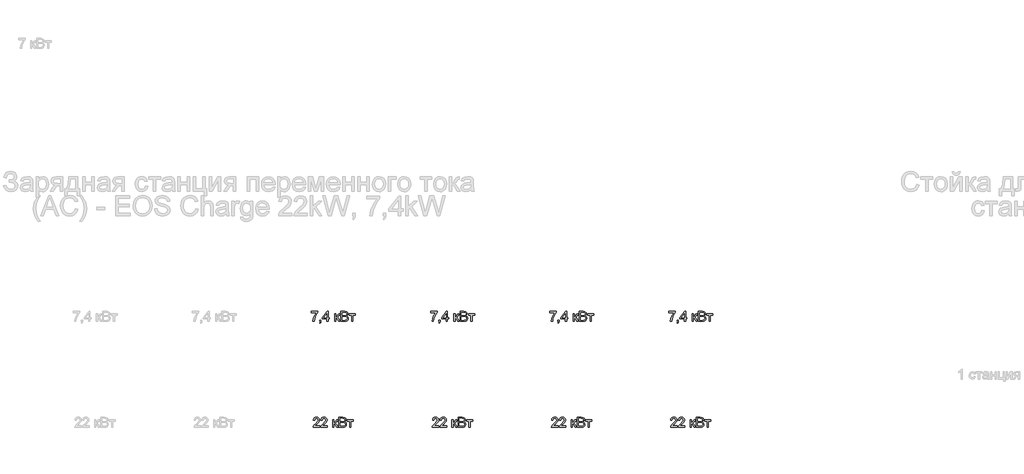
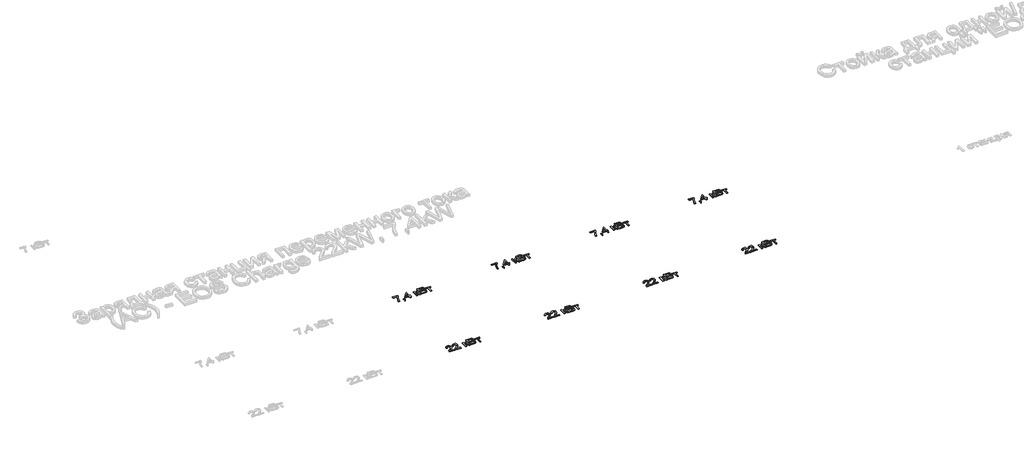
# One storey, part 2 of 26: 8 proxies.
"""IFC4 building model written with IfcOpenShell, lengths in millimetres."""

import ifcopenshell
import ifcopenshell.guid

model = None  # the IFC model being written
_history = None  # IfcOwnerHistory: only IFC2X3 demands one
_inside = {}  # id of a spatial element -> (the spatial element, [elements in it])
_under = {}  # id of a project, library or spatial element -> (it, [spatial elements below it])
_declared = {}  # id of a project -> (the project, [libraries it declares])
_typed = {}  # id of a type object -> (the type object, [elements of that type])
_made_of = {}  # id of a material, layer set ... -> (it, [elements and type objects made of it])


def new_model(schema):
    """Start an empty IFC model of exactly this schema.

    Asked for "IFC4X3", IfcOpenShell would pick the latest addendum, in which some entities
    have other attributes; the version numbers below select the first issue.
    IFC2X3 requires an IfcOwnerHistory on every rooted entity: one is made here for all.
    """
    global model, _history
    if schema == "IFC4X3":
        model = ifcopenshell.file(schema_version=(4, 3, 0, 0))
    else:
        model = ifcopenshell.file(schema=schema)
    _inside.clear()
    _under.clear()
    _declared.clear()
    _typed.clear()
    _made_of.clear()
    _history = None
    if model.schema == "IFC2X3":
        org = make("IfcOrganization", Name="unknown")
        user = make(
            "IfcPersonAndOrganization",
            ThePerson=make("IfcPerson", FamilyName="unknown"),
            TheOrganization=org,
        )
        app = make(
            "IfcApplication",
            ApplicationDeveloper=org,
            Version="unknown",
            ApplicationFullName="unknown",
            ApplicationIdentifier="unknown",
        )
        _history = make(
            "IfcOwnerHistory",
            OwningUser=user,
            OwningApplication=app,
            ChangeAction="ADDED",
            CreationDate=0,
        )
    return model


def make(cls, **values):
    """One entity of the class cls with the attributes given. An attribute that is None is left unset."""
    return model.create_entity(
        cls, **{name: value for name, value in values.items() if value is not None}
    )


def rooted(cls, **values):
    """An entity with a GlobalId (a new one), such as an element, a storey or a relation."""
    return make(cls, GlobalId=ifcopenshell.guid.new(), OwnerHistory=_history, **values)


def si_unit(unit_type, name, prefix=None):
    """IfcSIUnit, for example si_unit("LENGTHUNIT", "METRE", prefix="MILLI")."""
    return make("IfcSIUnit", UnitType=unit_type, Prefix=prefix, Name=name)


def assignment(units):
    """IfcUnitAssignment: the units of a project."""
    return None if units is None else make("IfcUnitAssignment", Units=units)


def point(xyz):
    """IfcCartesianPoint."""
    return None if xyz is None else make("IfcCartesianPoint", Coordinates=xyz)


def direction(xyz):
    """IfcDirection."""
    return None if xyz is None else make("IfcDirection", DirectionRatios=xyz)


def frame(location, z_axis=None, x_axis=None):
    """IfcAxis2Placement3D, a coordinate frame: its origin and axes. An axis left out is left unset."""
    return make(
        "IfcAxis2Placement3D",
        Location=point(location),
        Axis=direction(z_axis),
        RefDirection=direction(x_axis),
    )


def origin():
    """The frame at (0, 0, 0) with its axes left unset."""
    return frame((0.0, 0.0, 0.0))


def origin_with_axes():
    """The frame at (0, 0, 0) with the z axis (0, 0, 1) and the x axis (1, 0, 0) written out."""
    return frame((0.0, 0.0, 0.0), z_axis=(0.0, 0.0, 1.0), x_axis=(1.0, 0.0, 0.0))


def place(relative_to, where):
    """IfcLocalPlacement: puts the frame where relative to a parent placement (None: the world)."""
    return make(
        "IfcLocalPlacement", PlacementRelTo=relative_to, RelativePlacement=where
    )


def context(
    kind, dimensions, precision=None, world=None, true_north=None, identifier=None
):
    """IfcGeometricRepresentationContext, for example the 3D "Model" context."""
    return make(
        "IfcGeometricRepresentationContext",
        ContextIdentifier=identifier,
        ContextType=kind,
        CoordinateSpaceDimension=dimensions,
        Precision=precision,
        WorldCoordinateSystem=world,
        TrueNorth=true_north,
    )


def project(units=None, contexts=None):
    """IfcProject with its units and contexts."""
    return rooted(
        "IfcProject",
        Name="project",
        RepresentationContexts=contexts,
        UnitsInContext=assignment(units),
    )


def spatial(cls, under=None, at=None, **own):
    """A site, building, storey or space (cls), placed at a placement, below another one or the project."""
    s = rooted(cls, ObjectPlacement=at, **own)
    if under is not None:
        _under.setdefault(under.id(), (under, []))[1].append(s)
    return s


def polyline(points):
    """IfcPolyline through the points."""
    return make("IfcPolyline", Points=[point(p) for p in points])


def outline(outer, holes=None, kind="AREA"):
    """IfcArbitraryClosedProfileDef: a profile drawn as a closed curve; with holes, ...WithVoids."""
    if holes is None:
        return make("IfcArbitraryClosedProfileDef", ProfileType=kind, OuterCurve=outer)
    return make(
        "IfcArbitraryProfileDefWithVoids",
        ProfileType=kind,
        OuterCurve=outer,
        InnerCurves=holes,
    )


def extrude(swept, where, along, depth):
    """IfcExtrudedAreaSolid: the profile swept, set in the frame where, extruded along a direction by depth."""
    return make(
        "IfcExtrudedAreaSolid",
        SweptArea=swept,
        Position=where,
        ExtrudedDirection=direction(along),
        Depth=depth,
    )


def shape(context_of_items, identifier, shape_type, items):
    """IfcShapeRepresentation: the items that make up one representation, for example the "Body"."""
    return make(
        "IfcShapeRepresentation",
        ContextOfItems=context_of_items,
        RepresentationIdentifier=identifier,
        RepresentationType=shape_type,
        Items=items,
    )


def made_of(thing, what):
    """Note that an element or type object is made of a material, layer set ...; save() writes the relation."""
    if what is not None:
        _made_of.setdefault(what.id(), (what, []))[1].append(thing)
    return thing


def element(
    cls,
    number,
    at=None,
    inside=None,
    cuts=None,
    type_object=None,
    material=None,
    context=None,
    identifier="Body",
    shape_type=None,
    held_by="IfcProductDefinitionShape",
    body=None,
    shapes=None,
    **own,
):
    """One element of the class cls, such as IfcWall. Its Tag is "e" and its number.

    at: its placement. inside: the storey or other place that contains it. cuts: it is an
    opening in that element (IfcRelVoidsElement). A single representation is given by context,
    identifier, shape_type and body (its items); several are given by shapes. held_by: the class
    of the entity that holds the representations. save() writes the other relations.
    """
    e = rooted(cls, Tag="e%d" % number, ObjectPlacement=at, **own)
    if body is not None:
        shapes = [shape(context, identifier, shape_type, body)]
    if shapes is not None:
        e.Representation = make(held_by, Representations=shapes)
    if inside is not None:
        _inside.setdefault(inside.id(), (inside, []))[1].append(e)
    if cuts is not None:
        rooted(
            "IfcRelVoidsElement", RelatingBuildingElement=cuts, RelatedOpeningElement=e
        )
    if type_object is not None:
        _typed.setdefault(type_object.id(), (type_object, []))[1].append(e)
    return made_of(e, material)


def aggregate(whole, parts):
    """IfcRelAggregates: a whole, such as a stair, and the parts it consists of."""
    return rooted("IfcRelAggregates", RelatingObject=whole, RelatedObjects=parts)


def save(model, path):
    """Write the relations noted so far, then the file.

    IfcRelAggregates (storeys below a building ...), IfcRelContainedInSpatialStructure (elements
    in a storey), IfcRelDefinesByType, IfcRelAssociatesMaterial and IfcRelDeclares: one each for
    every whole, place, type object, material and project.
    """
    for whole, parts in _under.values():
        aggregate(whole, parts)
    for where, things in _inside.values():
        rooted(
            "IfcRelContainedInSpatialStructure",
            RelatedElements=things,
            RelatingStructure=where,
        )
    for kind, things in _typed.values():
        rooted("IfcRelDefinesByType", RelatedObjects=things, RelatingType=kind)
    for what, things in _made_of.values():
        rooted("IfcRelAssociatesMaterial", RelatedObjects=things, RelatingMaterial=what)
    for by, libraries in _declared.values():
        rooted("IfcRelDeclares", RelatingContext=by, RelatedDefinitions=libraries)
    model.write(path)


model = new_model("IFC4")

# Units and contexts
model_context = context("Model", 3, world=origin())
ifc_project = project(units=[si_unit("LENGTHUNIT", "METRE", prefix="MILLI")], contexts=[model_context])

# Site, building, storey
site = spatial("IfcSite", under=ifc_project)
building = spatial("IfcBuilding", under=site)
storey = spatial("IfcBuildingStorey", under=building, Name="Этаж 01", Elevation=0.0)

# Proxies
placement = place(None, origin())
element("IfcBuildingElementProxy", 1, Name="75 мм Arial", ObjectType="75 мм Arial", at=placement, inside=storey, context=model_context, shape_type="SweptSolid", body=[
    extrude(outline(polyline([(5073.8429939, -22047.1362973), (5073.8429939, -22037.7185182), (5123.2863341, -22037.7185182), (5123.2863341, -22045.3336755), (5109.260833, -22065.5947764), (5098.5278758, -22091.4108954), (5095.0329969, -22111.8835284), (5085.6152178, -22111.8835284), (5089.3584171, -22090.6383432), (5099.6315218, -22066.624846), (5113.868555, -22047.1362973), (5073.8429939, -22047.1362973)])), origin_with_axes(), (0.0, 0.0, 1.0), 5.0),
    extrude(outline(polyline([(5136.2357803, -22111.8835284), (5136.2357803, -22102.4657493), (5145.6535594, -22102.4657493), (5145.6535594, -22111.8835284), (5143.9613022, -22121.5128396), (5138.5902251, -22127.1874194), (5136.2357803, -22123.6557523), (5139.6938711, -22119.5906562), (5140.9262758, -22111.8835284), (5136.2357803, -22111.8835284)])), origin_with_axes(), (0.0, 0.0, 1.0), 5.0),
    extrude(outline(polyline([(5191.5652324, -22111.8835284), (5191.5652324, -22094.2251927), (5157.4257832, -22094.2251927), (5157.4257832, -22084.8074136), (5193.9196772, -22037.7185182), (5200.9830115, -22037.7185182), (5200.9830115, -22084.8074136), (5210.4007906, -22084.8074136), (5210.4007906, -22094.2251927), (5200.9830115, -22094.2251927), (5200.9830115, -22111.8835284), (5191.5652324, -22111.8835284)]), holes=[polyline([(5191.5652324, -22084.8074136), (5191.5652324, -22055.7079478), (5169.0140661, -22084.8074136), (5191.5652324, -22084.8074136)])]), origin_with_axes(), (0.0, 0.0, 1.0), 5.0),
    extrude(outline(polyline([(5250.4263516, -22056.5540763), (5259.8441307, -22056.5540763), (5259.8441307, -22080.098524), (5266.1533069, -22078.4062669), (5271.322049, -22068.5470294), (5275.6170712, -22060.0397583), (5279.4062558, -22057.2714462), (5286.2948462, -22056.5540763), (5288.0974679, -22056.5540763), (5288.0974679, -22066.0270377), (5285.5590822, -22065.9718554), (5280.9605572, -22066.9651368), (5277.7231957, -22073.1639484), (5273.9248141, -22079.8685978), (5268.5997222, -22083.1519446), (5280.371946, -22094.5378924), (5290.4519127, -22111.8835284), (5279.7465466, -22111.8835284), (5269.8689151, -22094.9057743), (5264.9025081, -22087.7228784), (5259.8441307, -22085.984636), (5259.8441307, -22111.8835284), (5250.4263516, -22111.8835284), (5250.4263516, -22056.5540763)])), origin_with_axes(), (0.0, 0.0, 1.0), 5.0),
    extrude(outline(polyline([(5297.515247, -22111.8835284), (5297.515247, -22036.5412958), (5326.2652249, -22036.5412958), (5340.3459083, -22038.7577848), (5348.6600414, -22045.5727988), (5351.6674767, -22055.2113071), (5349.138288, -22064.0128838), (5341.4955395, -22070.680745), (5350.7753629, -22077.7072911), (5354.0219215, -22089.4243326), (5351.8054324, -22099.5502845), (5346.3147937, -22106.7607716), (5338.1202222, -22110.5867444), (5326.0444957, -22111.8835284), (5297.515247, -22111.8835284)]), holes=[polyline([(5306.9330261, -22102.4657493), (5326.2468308, -22102.4657493), (5333.2365887, -22102.0978674), (5339.1502918, -22100.0469252), (5343.0682351, -22095.8622675), (5344.6041424, -22089.5163031), (5342.8015206, -22082.1954514), (5336.9613939, -22077.8268527), (5325.3271258, -22076.5668569), (5306.9330261, -22076.5668569), (5306.9330261, -22102.4657493)]), polyline([(5306.9330261, -22067.1490778), (5324.1315094, -22067.1490778), (5334.1746878, -22066.3397374), (5340.2171496, -22062.8540555), (5342.2496976, -22056.7196232), (5340.3551053, -22050.5759939), (5334.9288459, -22046.9431592), (5322.8255283, -22045.9590749), (5306.9330261, -22045.9590749), (5306.9330261, -22067.1490778)])]), origin_with_axes(), (0.0, 0.0, 1.0), 5.0),
    extrude(outline(polyline([(5361.0852558, -22056.5540763), (5405.8197064, -22056.5540763), (5405.8197064, -22065.9718554), (5388.1613706, -22065.9718554), (5388.1613706, -22111.8835284), (5378.7435915, -22111.8835284), (5378.7435915, -22065.9718554), (5361.0852558, -22065.9718554), (5361.0852558, -22056.5540763)])), origin_with_axes(), (0.0, 0.0, 1.0), 5.0),
])
element("IfcBuildingElementProxy", 2, Name="75 мм Arial", ObjectType="75 мм Arial", at=placement, inside=storey, context=model_context, shape_type="SweptSolid", body=[
    extrude(outline(polyline([(5974.5962232, -22047.1362973), (5974.5962232, -22037.7185182), (6024.0395633, -22037.7185182), (6024.0395633, -22045.3336755), (6010.0140622, -22065.5947764), (5999.281105, -22091.4108954), (5995.7862261, -22111.8835284), (5986.368447, -22111.8835284), (5990.1116463, -22090.6383432), (6000.384751, -22066.624846), (6014.6217842, -22047.1362973), (5974.5962232, -22047.1362973)])), origin_with_axes(), (0.0, 0.0, 1.0), 5.0),
    extrude(outline(polyline([(6036.9890095, -22111.8835284), (6036.9890095, -22102.4657493), (6046.4067886, -22102.4657493), (6046.4067886, -22111.8835284), (6044.7145314, -22121.5128396), (6039.3434543, -22127.1874194), (6036.9890095, -22123.6557523), (6040.4471003, -22119.5906562), (6041.679505, -22111.8835284), (6036.9890095, -22111.8835284)])), origin_with_axes(), (0.0, 0.0, 1.0), 5.0),
    extrude(outline(polyline([(6092.3184616, -22111.8835284), (6092.3184616, -22094.2251927), (6058.1790125, -22094.2251927), (6058.1790125, -22084.8074136), (6094.6729064, -22037.7185182), (6101.7362407, -22037.7185182), (6101.7362407, -22084.8074136), (6111.1540198, -22084.8074136), (6111.1540198, -22094.2251927), (6101.7362407, -22094.2251927), (6101.7362407, -22111.8835284), (6092.3184616, -22111.8835284)]), holes=[polyline([(6092.3184616, -22084.8074136), (6092.3184616, -22055.7079478), (6069.7672953, -22084.8074136), (6092.3184616, -22084.8074136)])]), origin_with_axes(), (0.0, 0.0, 1.0), 5.0),
    extrude(outline(polyline([(6151.1795808, -22056.5540763), (6160.5973599, -22056.5540763), (6160.5973599, -22080.098524), (6166.9065361, -22078.4062669), (6172.0752782, -22068.5470294), (6176.3703005, -22060.0397583), (6180.159485, -22057.2714462), (6187.0480754, -22056.5540763), (6188.8506972, -22056.5540763), (6188.8506972, -22066.0270377), (6186.3123114, -22065.9718554), (6181.7137864, -22066.9651368), (6178.4764249, -22073.1639484), (6174.6780433, -22079.8685978), (6169.3529514, -22083.1519446), (6181.1251753, -22094.5378924), (6191.2051419, -22111.8835284), (6180.4997759, -22111.8835284), (6170.6221443, -22094.9057743), (6165.6557374, -22087.7228784), (6160.5973599, -22085.984636), (6160.5973599, -22111.8835284), (6151.1795808, -22111.8835284), (6151.1795808, -22056.5540763)])), origin_with_axes(), (0.0, 0.0, 1.0), 5.0),
    extrude(outline(polyline([(6198.2684762, -22111.8835284), (6198.2684762, -22036.5412958), (6227.0184542, -22036.5412958), (6241.0991375, -22038.7577848), (6249.4132706, -22045.5727988), (6252.4207059, -22055.2113071), (6249.8915172, -22064.0128838), (6242.2487688, -22070.680745), (6251.5285921, -22077.7072911), (6254.7751507, -22089.4243326), (6252.5586617, -22099.5502845), (6247.0680229, -22106.7607716), (6238.8734514, -22110.5867444), (6226.797725, -22111.8835284), (6198.2684762, -22111.8835284)]), holes=[polyline([(6207.6862553, -22102.4657493), (6227.0000601, -22102.4657493), (6233.989818, -22102.0978674), (6239.903521, -22100.0469252), (6243.8214643, -22095.8622675), (6245.3573716, -22089.5163031), (6243.5547498, -22082.1954514), (6237.7146232, -22077.8268527), (6226.0803551, -22076.5668569), (6207.6862553, -22076.5668569), (6207.6862553, -22102.4657493)]), polyline([(6207.6862553, -22067.1490778), (6224.8847386, -22067.1490778), (6234.9279171, -22066.3397374), (6240.9703788, -22062.8540555), (6243.0029268, -22056.7196232), (6241.1083346, -22050.5759939), (6235.6820751, -22046.9431592), (6223.5787575, -22045.9590749), (6207.6862553, -22045.9590749), (6207.6862553, -22067.1490778)])]), origin_with_axes(), (0.0, 0.0, 1.0), 5.0),
    extrude(outline(polyline([(6261.838485, -22056.5540763), (6306.5729356, -22056.5540763), (6306.5729356, -22065.9718554), (6288.9145998, -22065.9718554), (6288.9145998, -22111.8835284), (6279.4968208, -22111.8835284), (6279.4968208, -22065.9718554), (6261.838485, -22065.9718554), (6261.838485, -22056.5540763)])), origin_with_axes(), (0.0, 0.0, 1.0), 5.0),
])
element("IfcBuildingElementProxy", 3, Name="75 мм Arial", ObjectType="75 мм Arial", at=placement, inside=storey, context=model_context, shape_type="SweptSolid", body=[
    extrude(outline(polyline([(6874.5962232, -22047.1362973), (6874.5962232, -22037.7185182), (6924.0395633, -22037.7185182), (6924.0395633, -22045.3336755), (6910.0140622, -22065.5947764), (6899.281105, -22091.4108954), (6895.7862261, -22111.8835284), (6886.368447, -22111.8835284), (6890.1116463, -22090.6383432), (6900.384751, -22066.624846), (6914.6217842, -22047.1362973), (6874.5962232, -22047.1362973)])), origin_with_axes(), (0.0, 0.0, 1.0), 5.0),
    extrude(outline(polyline([(6936.9890095, -22111.8835284), (6936.9890095, -22102.4657493), (6946.4067886, -22102.4657493), (6946.4067886, -22111.8835284), (6944.7145314, -22121.5128396), (6939.3434543, -22127.1874194), (6936.9890095, -22123.6557523), (6940.4471003, -22119.5906562), (6941.679505, -22111.8835284), (6936.9890095, -22111.8835284)])), origin_with_axes(), (0.0, 0.0, 1.0), 5.0),
    extrude(outline(polyline([(6992.3184616, -22111.8835284), (6992.3184616, -22094.2251927), (6958.1790125, -22094.2251927), (6958.1790125, -22084.8074136), (6994.6729064, -22037.7185182), (7001.7362407, -22037.7185182), (7001.7362407, -22084.8074136), (7011.1540198, -22084.8074136), (7011.1540198, -22094.2251927), (7001.7362407, -22094.2251927), (7001.7362407, -22111.8835284), (6992.3184616, -22111.8835284)]), holes=[polyline([(6992.3184616, -22084.8074136), (6992.3184616, -22055.7079478), (6969.7672953, -22084.8074136), (6992.3184616, -22084.8074136)])]), origin_with_axes(), (0.0, 0.0, 1.0), 5.0),
    extrude(outline(polyline([(7051.1795808, -22056.5540763), (7060.5973599, -22056.5540763), (7060.5973599, -22080.098524), (7066.9065361, -22078.4062669), (7072.0752782, -22068.5470294), (7076.3703005, -22060.0397583), (7080.159485, -22057.2714462), (7087.0480754, -22056.5540763), (7088.8506972, -22056.5540763), (7088.8506972, -22066.0270377), (7086.3123114, -22065.9718554), (7081.7137864, -22066.9651368), (7078.4764249, -22073.1639484), (7074.6780433, -22079.8685978), (7069.3529514, -22083.1519446), (7081.1251753, -22094.5378924), (7091.2051419, -22111.8835284), (7080.4997759, -22111.8835284), (7070.6221443, -22094.9057743), (7065.6557374, -22087.7228784), (7060.5973599, -22085.984636), (7060.5973599, -22111.8835284), (7051.1795808, -22111.8835284), (7051.1795808, -22056.5540763)])), origin_with_axes(), (0.0, 0.0, 1.0), 5.0),
    extrude(outline(polyline([(7098.2684762, -22111.8835284), (7098.2684762, -22036.5412958), (7127.0184542, -22036.5412958), (7141.0991375, -22038.7577848), (7149.4132706, -22045.5727988), (7152.4207059, -22055.2113071), (7149.8915172, -22064.0128838), (7142.2487688, -22070.680745), (7151.5285921, -22077.7072911), (7154.7751507, -22089.4243326), (7152.5586617, -22099.5502845), (7147.0680229, -22106.7607716), (7138.8734514, -22110.5867444), (7126.797725, -22111.8835284), (7098.2684762, -22111.8835284)]), holes=[polyline([(7107.6862553, -22102.4657493), (7127.0000601, -22102.4657493), (7133.989818, -22102.0978674), (7139.903521, -22100.0469252), (7143.8214643, -22095.8622675), (7145.3573716, -22089.5163031), (7143.5547498, -22082.1954514), (7137.7146232, -22077.8268527), (7126.0803551, -22076.5668569), (7107.6862553, -22076.5668569), (7107.6862553, -22102.4657493)]), polyline([(7107.6862553, -22067.1490778), (7124.8847386, -22067.1490778), (7134.9279171, -22066.3397374), (7140.9703788, -22062.8540555), (7143.0029268, -22056.7196232), (7141.1083346, -22050.5759939), (7135.6820751, -22046.9431592), (7123.5787575, -22045.9590749), (7107.6862553, -22045.9590749), (7107.6862553, -22067.1490778)])]), origin_with_axes(), (0.0, 0.0, 1.0), 5.0),
    extrude(outline(polyline([(7161.838485, -22056.5540763), (7206.5729356, -22056.5540763), (7206.5729356, -22065.9718554), (7188.9145998, -22065.9718554), (7188.9145998, -22111.8835284), (7179.4968208, -22111.8835284), (7179.4968208, -22065.9718554), (7161.838485, -22065.9718554), (7161.838485, -22056.5540763)])), origin_with_axes(), (0.0, 0.0, 1.0), 5.0),
])
element("IfcBuildingElementProxy", 4, Name="75 мм Arial", ObjectType="75 мм Arial", at=placement, inside=storey, context=model_context, shape_type="SweptSolid", body=[
    extrude(outline(polyline([(7773.8430302, -22047.1362973), (7773.8430302, -22037.7185182), (7823.2863704, -22037.7185182), (7823.2863704, -22045.3336755), (7809.2608693, -22065.5947764), (7798.5279121, -22091.4108954), (7795.0330331, -22111.8835284), (7785.6152541, -22111.8835284), (7789.3584534, -22090.6383432), (7799.6315581, -22066.624846), (7813.8685913, -22047.1362973), (7773.8430302, -22047.1362973)])), origin_with_axes(), (0.0, 0.0, 1.0), 5.0),
    extrude(outline(polyline([(7836.2358166, -22111.8835284), (7836.2358166, -22102.4657493), (7845.6535957, -22102.4657493), (7845.6535957, -22111.8835284), (7843.9613385, -22121.5128396), (7838.5902614, -22127.1874194), (7836.2358166, -22123.6557523), (7839.6939073, -22119.5906562), (7840.926312, -22111.8835284), (7836.2358166, -22111.8835284)])), origin_with_axes(), (0.0, 0.0, 1.0), 5.0),
    extrude(outline(polyline([(7891.5652687, -22111.8835284), (7891.5652687, -22094.2251927), (7857.4258195, -22094.2251927), (7857.4258195, -22084.8074136), (7893.9197134, -22037.7185182), (7900.9830477, -22037.7185182), (7900.9830477, -22084.8074136), (7910.4008268, -22084.8074136), (7910.4008268, -22094.2251927), (7900.9830477, -22094.2251927), (7900.9830477, -22111.8835284), (7891.5652687, -22111.8835284)]), holes=[polyline([(7891.5652687, -22084.8074136), (7891.5652687, -22055.7079478), (7869.0141024, -22084.8074136), (7891.5652687, -22084.8074136)])]), origin_with_axes(), (0.0, 0.0, 1.0), 5.0),
    extrude(outline(polyline([(7950.4263879, -22056.5540763), (7959.844167, -22056.5540763), (7959.844167, -22080.098524), (7966.1533432, -22078.4062669), (7971.3220852, -22068.5470294), (7975.6171075, -22060.0397583), (7979.4062921, -22057.2714462), (7986.2948824, -22056.5540763), (7988.0975042, -22056.5540763), (7988.0975042, -22066.0270377), (7985.5591184, -22065.9718554), (7980.9605935, -22066.9651368), (7977.7232319, -22073.1639484), (7973.9248503, -22079.8685978), (7968.5997585, -22083.1519446), (7980.3719823, -22094.5378924), (7990.451949, -22111.8835284), (7979.7465829, -22111.8835284), (7969.8689513, -22094.9057743), (7964.9025444, -22087.7228784), (7959.844167, -22085.984636), (7959.844167, -22111.8835284), (7950.4263879, -22111.8835284), (7950.4263879, -22056.5540763)])), origin_with_axes(), (0.0, 0.0, 1.0), 5.0),
    extrude(outline(polyline([(7997.5152833, -22111.8835284), (7997.5152833, -22036.5412958), (8026.2652612, -22036.5412958), (8040.3459446, -22038.7577848), (8048.6600777, -22045.5727988), (8051.667513, -22055.2113071), (8049.1383242, -22064.0128838), (8041.4955758, -22070.680745), (8050.7753991, -22077.7072911), (8054.0219577, -22089.4243326), (8051.8054687, -22099.5502845), (8046.3148299, -22106.7607716), (8038.1202585, -22110.5867444), (8026.044532, -22111.8835284), (7997.5152833, -22111.8835284)]), holes=[polyline([(8006.9330624, -22102.4657493), (8026.2468671, -22102.4657493), (8033.236625, -22102.0978674), (8039.1503281, -22100.0469252), (8043.0682713, -22095.8622675), (8044.6041787, -22089.5163031), (8042.8015569, -22082.1954514), (8036.9614302, -22077.8268527), (8025.3271621, -22076.5668569), (8006.9330624, -22076.5668569), (8006.9330624, -22102.4657493)]), polyline([(8006.9330624, -22067.1490778), (8024.1315456, -22067.1490778), (8034.1747241, -22066.3397374), (8040.2171859, -22062.8540555), (8042.2497339, -22056.7196232), (8040.3551416, -22050.5759939), (8034.9288822, -22046.9431592), (8022.8255645, -22045.9590749), (8006.9330624, -22045.9590749), (8006.9330624, -22067.1490778)])]), origin_with_axes(), (0.0, 0.0, 1.0), 5.0),
    extrude(outline(polyline([(8061.085292, -22056.5540763), (8105.8197427, -22056.5540763), (8105.8197427, -22065.9718554), (8088.1614069, -22065.9718554), (8088.1614069, -22111.8835284), (8078.7436278, -22111.8835284), (8078.7436278, -22065.9718554), (8061.085292, -22065.9718554), (8061.085292, -22056.5540763)])), origin_with_axes(), (0.0, 0.0, 1.0), 5.0),
])
element("IfcBuildingElementProxy", 5, Name="75 мм Arial", ObjectType="75 мм Arial", at=placement, inside=storey, context=model_context, shape_type="SweptSolid", body=[
    extrude(outline(polyline([(5136.8243915, -22902.4657493), (5136.8243915, -22911.8835284), (5087.3810514, -22911.8835284), (5088.3927269, -22905.3904112), (5094.1132919, -22895.393218), (5105.9039098, -22884.4763198), (5122.164294, -22868.7861527), (5126.2293901, -22858.1175748), (5122.3942203, -22849.481545), (5112.3786329, -22845.9590749), (5101.9399813, -22849.3987715), (5097.9760528, -22858.9085211), (5088.5582737, -22857.7312987), (5090.8414414, -22848.6216208), (5095.7779579, -22841.9675552), (5103.1103059, -22837.8978607), (5112.580968, -22836.5412958), (5122.120608, -22838.049612), (5129.4391605, -22842.5745605), (5134.095167, -22849.3343922), (5135.6471691, -22857.5473577), (5133.9733061, -22866.4776932), (5128.4090909, -22875.7115312), (5114.9170187, -22888.6149922), (5104.0828939, -22897.6740864), (5099.8338569, -22902.4657493), (5136.8243915, -22902.4657493)])), origin_with_axes(), (0.0, 0.0, 1.0), 5.0),
    extrude(outline(polyline([(5194.5082884, -22902.4657493), (5194.5082884, -22911.8835284), (5145.0649482, -22911.8835284), (5146.0766237, -22905.3904112), (5151.7971887, -22895.393218), (5163.5878067, -22884.4763198), (5179.8481909, -22868.7861527), (5183.9132869, -22858.1175748), (5180.0781171, -22849.481545), (5170.0625298, -22845.9590749), (5159.6238782, -22849.3987715), (5155.6599497, -22858.9085211), (5146.2421706, -22857.7312987), (5148.5253382, -22848.6216208), (5153.4618547, -22841.9675552), (5160.7942028, -22837.8978607), (5170.2648649, -22836.5412958), (5179.8045049, -22838.049612), (5187.1230573, -22842.5745605), (5191.7790638, -22849.3343922), (5193.331066, -22857.5473577), (5191.6572029, -22866.4776932), (5186.0929877, -22875.7115312), (5172.6009155, -22888.6149922), (5161.7667908, -22897.6740864), (5157.5177537, -22902.4657493), (5194.5082884, -22902.4657493)])), origin_with_axes(), (0.0, 0.0, 1.0), 5.0),
    extrude(outline(polyline([(5235.7110718, -22856.5540763), (5245.1288509, -22856.5540763), (5245.1288509, -22880.098524), (5251.4380271, -22878.4062669), (5256.6067691, -22868.5470294), (5260.9017914, -22860.0397583), (5264.690976, -22857.2714462), (5271.5795663, -22856.5540763), (5273.3821881, -22856.5540763), (5273.3821881, -22866.0270377), (5270.8438024, -22865.9718554), (5266.2452774, -22866.9651368), (5263.0079159, -22873.1639484), (5259.2095343, -22879.8685978), (5253.8844424, -22883.1519446), (5265.6566662, -22894.5378924), (5275.7366329, -22911.8835284), (5265.0312668, -22911.8835284), (5255.1536353, -22894.9057743), (5250.1872283, -22887.7228784), (5245.1288509, -22885.984636), (5245.1288509, -22911.8835284), (5235.7110718, -22911.8835284), (5235.7110718, -22856.5540763)])), origin_with_axes(), (0.0, 0.0, 1.0), 5.0),
    extrude(outline(polyline([(5282.7999672, -22911.8835284), (5282.7999672, -22836.5412958), (5311.5499451, -22836.5412958), (5325.6306285, -22838.7577848), (5333.9447616, -22845.5727988), (5336.9521969, -22855.2113071), (5334.4230082, -22864.0128838), (5326.7802597, -22870.680745), (5336.0600831, -22877.7072911), (5339.3066417, -22889.4243326), (5337.0901526, -22899.5502845), (5331.5995139, -22906.7607716), (5323.4049424, -22910.5867444), (5311.3292159, -22911.8835284), (5282.7999672, -22911.8835284)]), holes=[polyline([(5292.2177463, -22902.4657493), (5311.531551, -22902.4657493), (5318.5213089, -22902.0978674), (5324.435012, -22900.0469252), (5328.3529553, -22895.8622675), (5329.8888626, -22889.5163031), (5328.0862408, -22882.1954514), (5322.2461141, -22877.8268527), (5310.611846, -22876.5668569), (5292.2177463, -22876.5668569), (5292.2177463, -22902.4657493)]), polyline([(5292.2177463, -22867.1490778), (5309.4162296, -22867.1490778), (5319.459408, -22866.3397374), (5325.5018698, -22862.8540555), (5327.5344178, -22856.7196232), (5325.6398255, -22850.5759939), (5320.2135661, -22846.9431592), (5308.1102485, -22845.9590749), (5292.2177463, -22845.9590749), (5292.2177463, -22867.1490778)])]), origin_with_axes(), (0.0, 0.0, 1.0), 5.0),
    extrude(outline(polyline([(5346.369976, -22856.5540763), (5391.1044266, -22856.5540763), (5391.1044266, -22865.9718554), (5373.4460908, -22865.9718554), (5373.4460908, -22911.8835284), (5364.0283117, -22911.8835284), (5364.0283117, -22865.9718554), (5346.369976, -22865.9718554), (5346.369976, -22856.5540763)])), origin_with_axes(), (0.0, 0.0, 1.0), 5.0),
])
element("IfcBuildingElementProxy", 6, Name="75 мм Arial", ObjectType="75 мм Arial", at=placement, inside=storey, context=model_context, shape_type="SweptSolid", body=[
    extrude(outline(polyline([(6037.5776207, -22902.4657493), (6037.5776207, -22911.8835284), (5988.1342806, -22911.8835284), (5989.1459561, -22905.3904112), (5994.8665211, -22895.393218), (6006.657139, -22884.4763198), (6022.9175232, -22868.7861527), (6026.9826193, -22858.1175748), (6023.1474495, -22849.481545), (6013.1318622, -22845.9590749), (6002.6932105, -22849.3987715), (5998.729282, -22858.9085211), (5989.311503, -22857.7312987), (5991.5946706, -22848.6216208), (5996.5311871, -22841.9675552), (6003.8635351, -22837.8978607), (6013.3341973, -22836.5412958), (6022.8738372, -22838.049612), (6030.1923897, -22842.5745605), (6034.8483962, -22849.3343922), (6036.4003984, -22857.5473577), (6034.7265353, -22866.4776932), (6029.1623201, -22875.7115312), (6015.6702479, -22888.6149922), (6004.8361232, -22897.6740864), (6000.5870861, -22902.4657493), (6037.5776207, -22902.4657493)])), origin_with_axes(), (0.0, 0.0, 1.0), 5.0),
    extrude(outline(polyline([(6095.2615176, -22902.4657493), (6095.2615176, -22911.8835284), (6045.8181774, -22911.8835284), (6046.8298529, -22905.3904112), (6052.5504179, -22895.393218), (6064.3410359, -22884.4763198), (6080.6014201, -22868.7861527), (6084.6665161, -22858.1175748), (6080.8313463, -22849.481545), (6070.815759, -22845.9590749), (6060.3771074, -22849.3987715), (6056.4131789, -22858.9085211), (6046.9953998, -22857.7312987), (6049.2785674, -22848.6216208), (6054.215084, -22841.9675552), (6061.547432, -22837.8978607), (6071.0180941, -22836.5412958), (6080.5577341, -22838.049612), (6087.8762865, -22842.5745605), (6092.532293, -22849.3343922), (6094.0842952, -22857.5473577), (6092.4104321, -22866.4776932), (6086.8462169, -22875.7115312), (6073.3541448, -22888.6149922), (6062.52002, -22897.6740864), (6058.270983, -22902.4657493), (6095.2615176, -22902.4657493)])), origin_with_axes(), (0.0, 0.0, 1.0), 5.0),
    extrude(outline(polyline([(6136.464301, -22856.5540763), (6145.8820801, -22856.5540763), (6145.8820801, -22880.098524), (6152.1912563, -22878.4062669), (6157.3599984, -22868.5470294), (6161.6550207, -22860.0397583), (6165.4442052, -22857.2714462), (6172.3327956, -22856.5540763), (6174.1354173, -22856.5540763), (6174.1354173, -22866.0270377), (6171.5970316, -22865.9718554), (6166.9985066, -22866.9651368), (6163.7611451, -22873.1639484), (6159.9627635, -22879.8685978), (6154.6376716, -22883.1519446), (6166.4098954, -22894.5378924), (6176.4898621, -22911.8835284), (6165.7844961, -22911.8835284), (6155.9068645, -22894.9057743), (6150.9404576, -22887.7228784), (6145.8820801, -22885.984636), (6145.8820801, -22911.8835284), (6136.464301, -22911.8835284), (6136.464301, -22856.5540763)])), origin_with_axes(), (0.0, 0.0, 1.0), 5.0),
    extrude(outline(polyline([(6183.5531964, -22911.8835284), (6183.5531964, -22836.5412958), (6212.3031743, -22836.5412958), (6226.3838577, -22838.7577848), (6234.6979908, -22845.5727988), (6237.7054261, -22855.2113071), (6235.1762374, -22864.0128838), (6227.5334889, -22870.680745), (6236.8133123, -22877.7072911), (6240.0598709, -22889.4243326), (6237.8433819, -22899.5502845), (6232.3527431, -22906.7607716), (6224.1581716, -22910.5867444), (6212.0824451, -22911.8835284), (6183.5531964, -22911.8835284)]), holes=[polyline([(6192.9709755, -22902.4657493), (6212.2847802, -22902.4657493), (6219.2745382, -22902.0978674), (6225.1882412, -22900.0469252), (6229.1061845, -22895.8622675), (6230.6420918, -22889.5163031), (6228.83947, -22882.1954514), (6222.9993434, -22877.8268527), (6211.3650753, -22876.5668569), (6192.9709755, -22876.5668569), (6192.9709755, -22902.4657493)]), polyline([(6192.9709755, -22867.1490778), (6210.1694588, -22867.1490778), (6220.2126372, -22866.3397374), (6226.255099, -22862.8540555), (6228.287647, -22856.7196232), (6226.3930548, -22850.5759939), (6220.9667953, -22846.9431592), (6208.8634777, -22845.9590749), (6192.9709755, -22845.9590749), (6192.9709755, -22867.1490778)])]), origin_with_axes(), (0.0, 0.0, 1.0), 5.0),
    extrude(outline(polyline([(6247.1232052, -22856.5540763), (6291.8576558, -22856.5540763), (6291.8576558, -22865.9718554), (6274.19932, -22865.9718554), (6274.19932, -22911.8835284), (6264.781541, -22911.8835284), (6264.781541, -22865.9718554), (6247.1232052, -22865.9718554), (6247.1232052, -22856.5540763)])), origin_with_axes(), (0.0, 0.0, 1.0), 5.0),
])
element("IfcBuildingElementProxy", 7, Name="75 мм Arial", ObjectType="75 мм Arial", at=placement, inside=storey, context=model_context, shape_type="SweptSolid", body=[
    extrude(outline(polyline([(6937.5776207, -22902.4657493), (6937.5776207, -22911.8835284), (6888.1342806, -22911.8835284), (6889.1459561, -22905.3904112), (6894.8665211, -22895.393218), (6906.657139, -22884.4763198), (6922.9175232, -22868.7861527), (6926.9826193, -22858.1175748), (6923.1474495, -22849.481545), (6913.1318622, -22845.9590749), (6902.6932105, -22849.3987715), (6898.729282, -22858.9085211), (6889.311503, -22857.7312987), (6891.5946706, -22848.6216208), (6896.5311871, -22841.9675552), (6903.8635351, -22837.8978607), (6913.3341973, -22836.5412958), (6922.8738372, -22838.049612), (6930.1923897, -22842.5745605), (6934.8483962, -22849.3343922), (6936.4003984, -22857.5473577), (6934.7265353, -22866.4776932), (6929.1623201, -22875.7115312), (6915.6702479, -22888.6149922), (6904.8361232, -22897.6740864), (6900.5870861, -22902.4657493), (6937.5776207, -22902.4657493)])), origin_with_axes(), (0.0, 0.0, 1.0), 5.0),
    extrude(outline(polyline([(6995.2615176, -22902.4657493), (6995.2615176, -22911.8835284), (6945.8181774, -22911.8835284), (6946.8298529, -22905.3904112), (6952.5504179, -22895.393218), (6964.3410359, -22884.4763198), (6980.6014201, -22868.7861527), (6984.6665161, -22858.1175748), (6980.8313463, -22849.481545), (6970.815759, -22845.9590749), (6960.3771074, -22849.3987715), (6956.4131789, -22858.9085211), (6946.9953998, -22857.7312987), (6949.2785674, -22848.6216208), (6954.215084, -22841.9675552), (6961.547432, -22837.8978607), (6971.0180941, -22836.5412958), (6980.5577341, -22838.049612), (6987.8762865, -22842.5745605), (6992.532293, -22849.3343922), (6994.0842952, -22857.5473577), (6992.4104321, -22866.4776932), (6986.8462169, -22875.7115312), (6973.3541448, -22888.6149922), (6962.52002, -22897.6740864), (6958.270983, -22902.4657493), (6995.2615176, -22902.4657493)])), origin_with_axes(), (0.0, 0.0, 1.0), 5.0),
    extrude(outline(polyline([(7036.464301, -22856.5540763), (7045.8820801, -22856.5540763), (7045.8820801, -22880.098524), (7052.1912563, -22878.4062669), (7057.3599984, -22868.5470294), (7061.6550207, -22860.0397583), (7065.4442052, -22857.2714462), (7072.3327956, -22856.5540763), (7074.1354173, -22856.5540763), (7074.1354173, -22866.0270377), (7071.5970316, -22865.9718554), (7066.9985066, -22866.9651368), (7063.7611451, -22873.1639484), (7059.9627635, -22879.8685978), (7054.6376716, -22883.1519446), (7066.4098954, -22894.5378924), (7076.4898621, -22911.8835284), (7065.7844961, -22911.8835284), (7055.9068645, -22894.9057743), (7050.9404576, -22887.7228784), (7045.8820801, -22885.984636), (7045.8820801, -22911.8835284), (7036.464301, -22911.8835284), (7036.464301, -22856.5540763)])), origin_with_axes(), (0.0, 0.0, 1.0), 5.0),
    extrude(outline(polyline([(7083.5531964, -22911.8835284), (7083.5531964, -22836.5412958), (7112.3031743, -22836.5412958), (7126.3838577, -22838.7577848), (7134.6979908, -22845.5727988), (7137.7054261, -22855.2113071), (7135.1762374, -22864.0128838), (7127.5334889, -22870.680745), (7136.8133123, -22877.7072911), (7140.0598709, -22889.4243326), (7137.8433819, -22899.5502845), (7132.3527431, -22906.7607716), (7124.1581716, -22910.5867444), (7112.0824451, -22911.8835284), (7083.5531964, -22911.8835284)]), holes=[polyline([(7092.9709755, -22902.4657493), (7112.2847802, -22902.4657493), (7119.2745382, -22902.0978674), (7125.1882412, -22900.0469252), (7129.1061845, -22895.8622675), (7130.6420918, -22889.5163031), (7128.83947, -22882.1954514), (7122.9993434, -22877.8268527), (7111.3650753, -22876.5668569), (7092.9709755, -22876.5668569), (7092.9709755, -22902.4657493)]), polyline([(7092.9709755, -22867.1490778), (7110.1694588, -22867.1490778), (7120.2126372, -22866.3397374), (7126.255099, -22862.8540555), (7128.287647, -22856.7196232), (7126.3930548, -22850.5759939), (7120.9667953, -22846.9431592), (7108.8634777, -22845.9590749), (7092.9709755, -22845.9590749), (7092.9709755, -22867.1490778)])]), origin_with_axes(), (0.0, 0.0, 1.0), 5.0),
    extrude(outline(polyline([(7147.1232052, -22856.5540763), (7191.8576558, -22856.5540763), (7191.8576558, -22865.9718554), (7174.19932, -22865.9718554), (7174.19932, -22911.8835284), (7164.781541, -22911.8835284), (7164.781541, -22865.9718554), (7147.1232052, -22865.9718554), (7147.1232052, -22856.5540763)])), origin_with_axes(), (0.0, 0.0, 1.0), 5.0),
])
element("IfcBuildingElementProxy", 8, Name="75 мм Arial", ObjectType="75 мм Arial", at=placement, inside=storey, context=model_context, shape_type="SweptSolid", body=[
    extrude(outline(polyline([(7836.8244278, -22902.4657493), (7836.8244278, -22911.8835284), (7787.3810876, -22911.8835284), (7788.3927631, -22905.3904112), (7794.1133281, -22895.393218), (7805.9039461, -22884.4763198), (7822.1643303, -22868.7861527), (7826.2294263, -22858.1175748), (7822.3942565, -22849.481545), (7812.3786692, -22845.9590749), (7801.9400176, -22849.3987715), (7797.9760891, -22858.9085211), (7788.55831, -22857.7312987), (7790.8414776, -22848.6216208), (7795.7779942, -22841.9675552), (7803.1103422, -22837.8978607), (7812.5810043, -22836.5412958), (7822.1206443, -22838.049612), (7829.4391967, -22842.5745605), (7834.0952032, -22849.3343922), (7835.6472054, -22857.5473577), (7833.9733423, -22866.4776932), (7828.4091271, -22875.7115312), (7814.917055, -22888.6149922), (7804.0829302, -22897.6740864), (7799.8338932, -22902.4657493), (7836.8244278, -22902.4657493)])), origin_with_axes(), (0.0, 0.0, 1.0), 5.0),
    extrude(outline(polyline([(7894.5083246, -22902.4657493), (7894.5083246, -22911.8835284), (7845.0649845, -22911.8835284), (7846.07666, -22905.3904112), (7851.797225, -22895.393218), (7863.5878429, -22884.4763198), (7879.8482271, -22868.7861527), (7883.9133232, -22858.1175748), (7880.0781534, -22849.481545), (7870.062566, -22845.9590749), (7859.6239144, -22849.3987715), (7855.6599859, -22858.9085211), (7846.2422069, -22857.7312987), (7848.5253745, -22848.6216208), (7853.461891, -22841.9675552), (7860.794239, -22837.8978607), (7870.2649011, -22836.5412958), (7879.8045411, -22838.049612), (7887.1230936, -22842.5745605), (7891.7791001, -22849.3343922), (7893.3311022, -22857.5473577), (7891.6572392, -22866.4776932), (7886.093024, -22875.7115312), (7872.6009518, -22888.6149922), (7861.7668271, -22897.6740864), (7857.51779, -22902.4657493), (7894.5083246, -22902.4657493)])), origin_with_axes(), (0.0, 0.0, 1.0), 5.0),
    extrude(outline(polyline([(7935.7111081, -22856.5540763), (7945.1288872, -22856.5540763), (7945.1288872, -22880.098524), (7951.4380634, -22878.4062669), (7956.6068054, -22868.5470294), (7960.9018277, -22860.0397583), (7964.6910123, -22857.2714462), (7971.5796026, -22856.5540763), (7973.3822244, -22856.5540763), (7973.3822244, -22866.0270377), (7970.8438386, -22865.9718554), (7966.2453137, -22866.9651368), (7963.0079521, -22873.1639484), (7959.2095705, -22879.8685978), (7953.8844786, -22883.1519446), (7965.6567025, -22894.5378924), (7975.7366692, -22911.8835284), (7965.0313031, -22911.8835284), (7955.1536715, -22894.9057743), (7950.1872646, -22887.7228784), (7945.1288872, -22885.984636), (7945.1288872, -22911.8835284), (7935.7111081, -22911.8835284), (7935.7111081, -22856.5540763)])), origin_with_axes(), (0.0, 0.0, 1.0), 5.0),
    extrude(outline(polyline([(7982.8000035, -22911.8835284), (7982.8000035, -22836.5412958), (8011.5499814, -22836.5412958), (8025.6306648, -22838.7577848), (8033.9447978, -22845.5727988), (8036.9522332, -22855.2113071), (8034.4230444, -22864.0128838), (8026.780296, -22870.680745), (8036.0601193, -22877.7072911), (8039.3066779, -22889.4243326), (8037.0901889, -22899.5502845), (8031.5995501, -22906.7607716), (8023.4049787, -22910.5867444), (8011.3292522, -22911.8835284), (7982.8000035, -22911.8835284)]), holes=[polyline([(7992.2177825, -22902.4657493), (8011.5315873, -22902.4657493), (8018.5213452, -22902.0978674), (8024.4350483, -22900.0469252), (8028.3529915, -22895.8622675), (8029.8888988, -22889.5163031), (8028.0862771, -22882.1954514), (8022.2461504, -22877.8268527), (8010.6118823, -22876.5668569), (7992.2177825, -22876.5668569), (7992.2177825, -22902.4657493)]), polyline([(7992.2177825, -22867.1490778), (8009.4162658, -22867.1490778), (8019.4594443, -22866.3397374), (8025.5019061, -22862.8540555), (8027.5344541, -22856.7196232), (8025.6398618, -22850.5759939), (8020.2136024, -22846.9431592), (8008.1102847, -22845.9590749), (7992.2177825, -22845.9590749), (7992.2177825, -22867.1490778)])]), origin_with_axes(), (0.0, 0.0, 1.0), 5.0),
    extrude(outline(polyline([(8046.3700122, -22856.5540763), (8091.1044628, -22856.5540763), (8091.1044628, -22865.9718554), (8073.4461271, -22865.9718554), (8073.4461271, -22911.8835284), (8064.028348, -22911.8835284), (8064.028348, -22865.9718554), (8046.3700122, -22865.9718554), (8046.3700122, -22856.5540763)])), origin_with_axes(), (0.0, 0.0, 1.0), 5.0),
])

save(model, "model.ifc")
